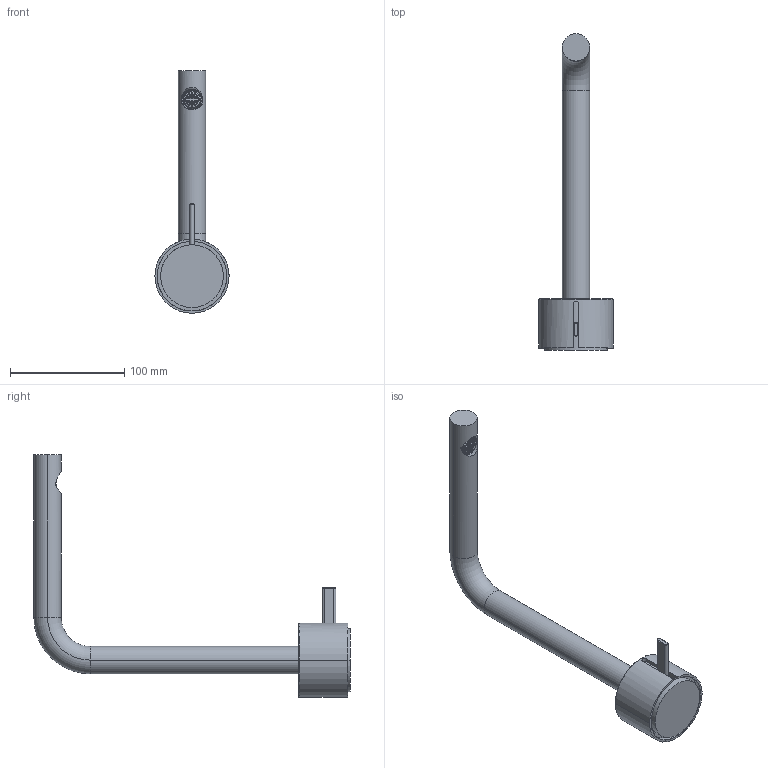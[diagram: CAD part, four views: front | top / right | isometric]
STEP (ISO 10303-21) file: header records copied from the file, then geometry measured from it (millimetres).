
FILE_DESCRIPTION((''),'2;1');
FILE_NAME('27000A506WF00000_SW0001','2023-01-12T10:43:24',('matteo.follador'),(''),'CREO PARAMETRIC BY PTC INC, 2020281','CREO PARAMETRIC BY PTC INC, 2020281','');
FILE_SCHEMA(('AUTOMOTIVE_DESIGN { 1 0 10303 214 1 1 1 1 }'));
Length unit declared in the file: millimetre
Products named in the file (1): 27000A506WF00000_SW0001
Bounding box: 65 x 277.2 x 212.5 mm (x, y, z)
Volume: 228503.7 mm3; surface area: 79343.8 mm2
Topology: 2 solids, 4 shells, 353 faces, 918 edges, 600 vertices
Faces by surface type: plane 259, cylinder 61, torus 18, cone 9, sphere 4, bspline 2
Entity records: 13526 total; most frequent: CARTESIAN_POINT 3718, DIRECTION 1965, ORIENTED_EDGE 1836, EDGE_CURVE 918, AXIS2_PLACEMENT_3D 726, VERTEX_POINT 600, VECTOR 510, LINE 510
